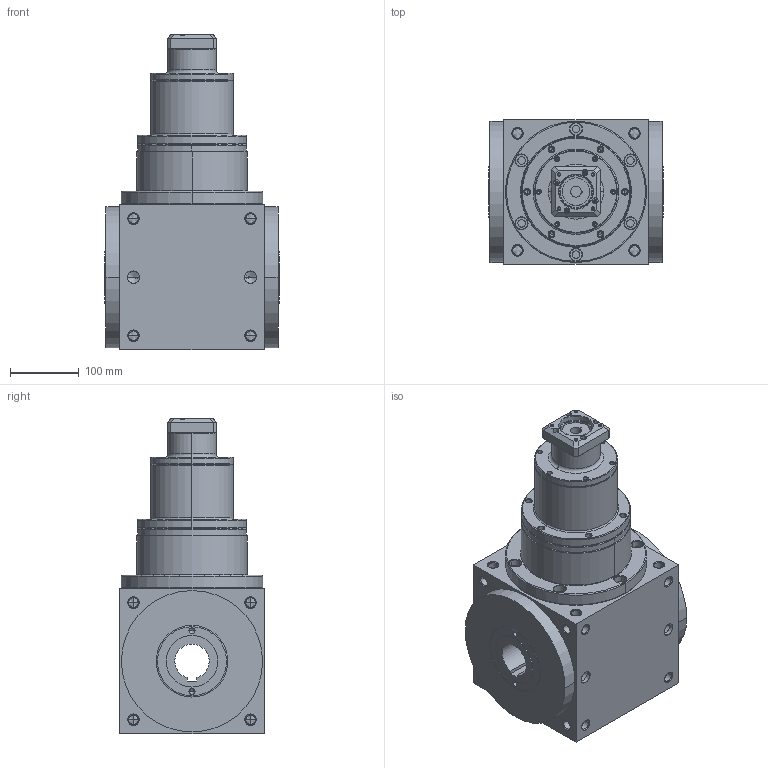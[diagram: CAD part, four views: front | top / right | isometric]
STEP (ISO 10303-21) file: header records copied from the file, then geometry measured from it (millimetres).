
FILE_DESCRIPTION((''),'2;1');
FILE_NAME('AT210FH3-P0405200304_ASM','2009-01-23T',('d00176'),(''),'PRO/ENGINEER BY PARAMETRIC TECHNOLOGY CORPORATION, 2006170','PRO/ENGINEER BY PARAMETRIC TECHNOLOGY CORPORATION, 2006170','');
FILE_SCHEMA(('CONFIG_CONTROL_DESIGN'));
Length unit declared in the file: millimetre
Products named in the file (6): ATFH-HOUSING-3-8; P1801800001; P0226800002; P0227800001; P0405200304; AT210FH3-P0405200304_ASM
Assembly tree (5 placements, depth 2):
  AT210FH3-P0405200304_ASM
    ATFH-HOUSING-3-8
    P1801800001
    P0226800002
    P0227800001
    P0405200304
Bounding box: 254 x 210 x 457.5 mm (x, y, z)
Volume: 11819019.5 mm3; surface area: 714387.6 mm2
Topology: 5 solids, 49 shells, 919 faces, 2234 edges, 1313 vertices
Faces by surface type: cylinder 389, cone 350, plane 118, torus 58, bspline 4
Entity records: 27382 total; most frequent: CARTESIAN_POINT 5649, DIRECTION 4964, ORIENTED_EDGE 4080, EDGE_CURVE 2128, AXIS2_PLACEMENT_3D 2082, VERTEX_POINT 1313, CIRCLE 1146, EDGE_LOOP 1101
